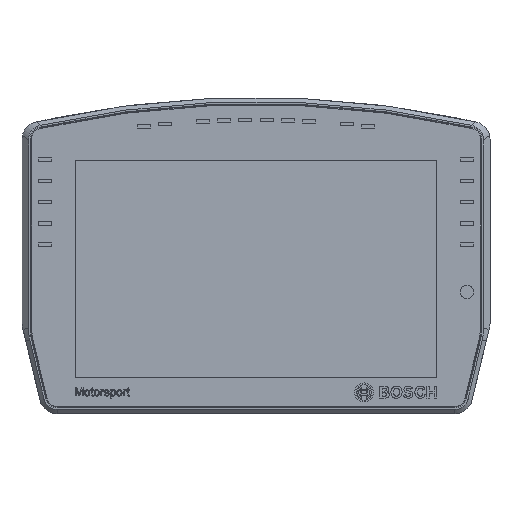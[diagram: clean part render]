
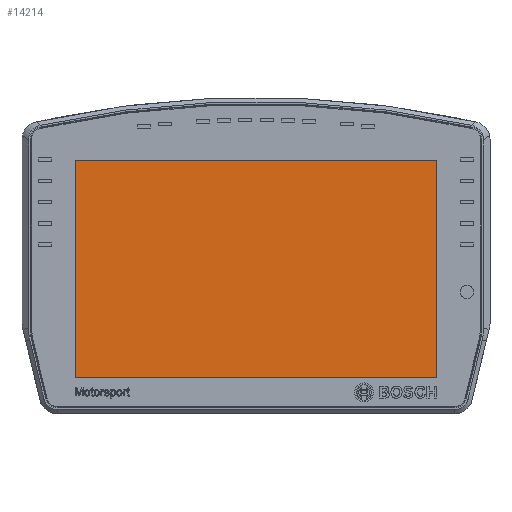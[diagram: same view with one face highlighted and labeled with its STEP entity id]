
A CAD part, top view. The second image highlights one B-rep face of the part: STEP entity #14214.
In plain terms, the highlighted planar face has unit normal (0, 0, 1).
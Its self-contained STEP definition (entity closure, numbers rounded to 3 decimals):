
#14214=ADVANCED_FACE('',(#15851),#14967,.F.);
#14967=PLANE('',#35082);
#15851=FACE_OUTER_BOUND('',#18430,.T.);
#18430=EDGE_LOOP('',(#23626,#23627,#23628,#23629));
#23626=ORIENTED_EDGE('',*,*,#29518,.F.);
#23627=ORIENTED_EDGE('',*,*,#29524,.F.);
#23628=ORIENTED_EDGE('',*,*,#29522,.F.);
#23629=ORIENTED_EDGE('',*,*,#29520,.F.);
#26706=VERTEX_POINT('',#53680);
#26707=VERTEX_POINT('',#53682);
#26708=VERTEX_POINT('',#53686);
#26709=VERTEX_POINT('',#53690);
#29518=EDGE_CURVE('',#26706,#26707,#30858,.T.);
#29520=EDGE_CURVE('',#26707,#26708,#30860,.T.);
#29522=EDGE_CURVE('',#26708,#26709,#30862,.T.);
#29524=EDGE_CURVE('',#26709,#26706,#30864,.T.);
#30858=LINE('',#53681,#32020);
#30860=LINE('',#53685,#32022);
#30862=LINE('',#53689,#32024);
#30864=LINE('',#53693,#32026);
#32020=VECTOR('',#41611,1.);
#32022=VECTOR('',#41615,1.);
#32024=VECTOR('',#41619,1.);
#32026=VECTOR('',#41623,1.);
#35082=AXIS2_PLACEMENT_3D('',#53695,#41626,#41627);
#41611=DIRECTION('',(0.,1.,0.));
#41615=DIRECTION('',(1.,0.,0.));
#41619=DIRECTION('',(0.,-1.,0.));
#41623=DIRECTION('',(-1.,0.,0.));
#41626=DIRECTION('',(0.,0.,-1.));
#41627=DIRECTION('',(-1.,0.,0.));
#53680=CARTESIAN_POINT('',(-76.4,-47.7,1.1));
#53681=CARTESIAN_POINT('',(-76.4,-47.7,1.1));
#53682=CARTESIAN_POINT('',(-76.4,44.1,1.1));
#53685=CARTESIAN_POINT('',(-76.4,44.1,1.1));
#53686=CARTESIAN_POINT('',(76.4,44.1,1.1));
#53689=CARTESIAN_POINT('',(76.4,44.1,1.1));
#53690=CARTESIAN_POINT('',(76.4,-47.7,1.1));
#53693=CARTESIAN_POINT('',(76.4,-47.7,1.1));
#53695=CARTESIAN_POINT('',(0.,0.,1.1));
